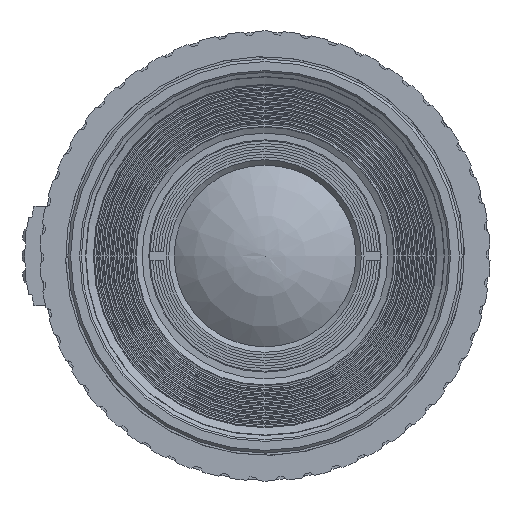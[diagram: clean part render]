
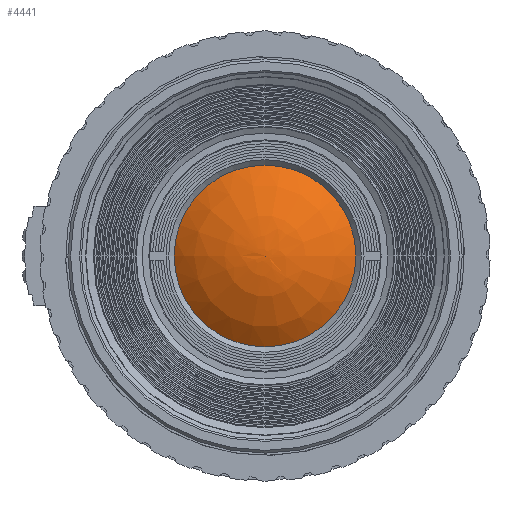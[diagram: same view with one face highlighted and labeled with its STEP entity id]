
A CAD part, left-side view. The second image highlights one B-rep face of the part: STEP entity #4441.
In plain terms, the highlighted face is a revolution surface.
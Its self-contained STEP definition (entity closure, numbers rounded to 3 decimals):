
#3471=SURFACE_OF_REVOLUTION('',#3542,#3473);
#3473=AXIS1_PLACEMENT('',#17458,#14959);
#3475=VERTEX_LOOP('',#10257);
#3542=B_SPLINE_CURVE_WITH_KNOTS('',3,(#17453,#17454,#17455,#17456,#17457),
.UNSPECIFIED.,.F.,.F.,(4,1,4),(0.,0.532,1.),.UNSPECIFIED.);
#3639=FACE_BOUND('',#3475,.T.);
#4441=ADVANCED_FACE('',(#5003,#3639),#3471,.F.);
#5003=FACE_OUTER_BOUND('',#5543,.T.);
#5543=EDGE_LOOP('',(#9345));
#9345=ORIENTED_EDGE('',*,*,#11344,.T.);
#10219=VERTEX_POINT('',#17335);
#10257=VERTEX_POINT('',#17452);
#11344=EDGE_CURVE('',#10219,#10219,#11793,.T.);
#11793=CIRCLE('',#12567,10.1);
#12567=AXIS2_PLACEMENT_3D('',#17334,#14837,#14838);
#14837=DIRECTION('',(-1.,0.,0.));
#14838=DIRECTION('',(0.,0.,1.));
#14959=DIRECTION('',(-1.,0.,0.));
#17334=CARTESIAN_POINT('',(3.591,0.,0.));
#17335=CARTESIAN_POINT('',(3.591,0.,10.1));
#17452=CARTESIAN_POINT('',(0.01,0.,0.));
#17453=CARTESIAN_POINT('',(0.01,0.,0.));
#17454=CARTESIAN_POINT('',(0.01,1.79,0.));
#17455=CARTESIAN_POINT('',(0.57,5.157,0.));
#17456=CARTESIAN_POINT('',(2.301,8.523,0.));
#17457=CARTESIAN_POINT('',(3.591,10.1,0.));
#17458=CARTESIAN_POINT('',(0.01,0.,0.));
